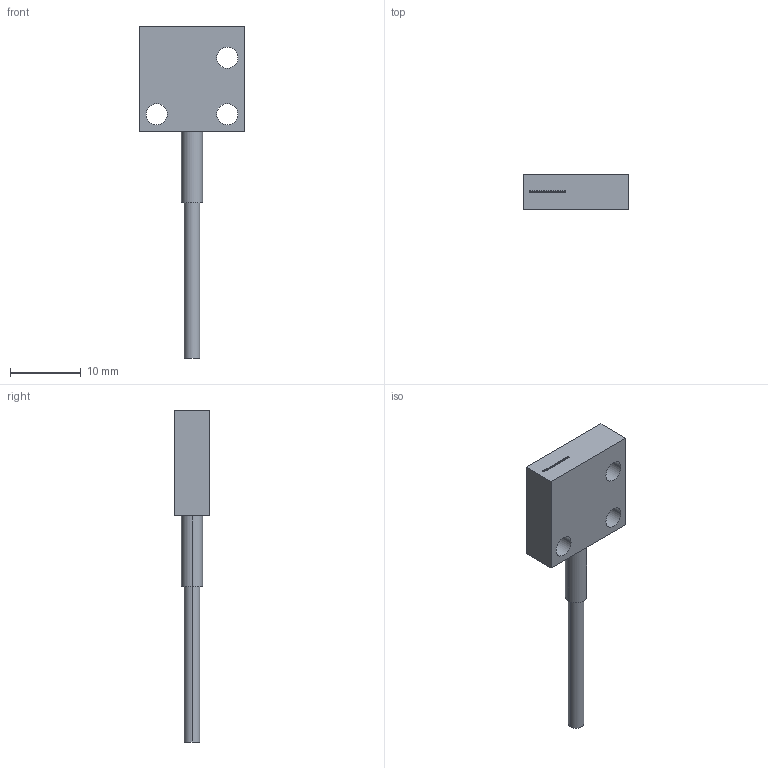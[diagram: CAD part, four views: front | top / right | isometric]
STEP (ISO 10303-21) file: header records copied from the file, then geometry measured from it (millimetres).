
FILE_DESCRIPTION (( 'STEP AP203' ), '1' );
FILE_NAME ('FT-AFM2.STEP', '2005-09-08T15:10:27', ( ' ' ), ( ' ' ), 'SwSTEP 2.0', 'SolidWorks 2004073', '' );
FILE_SCHEMA (( 'CONFIG_CONTROL_DESIGN' ));
Length unit declared in the file: millimetre
Products named in the file (1): FT-AFM2
Bounding box: 15 x 5 x 47 mm (x, y, z)
Volume: 1173.2 mm3; surface area: 1096.6 mm2
Topology: 1 solids, 1 shells, 66 faces, 138 edges, 92 vertices
Faces by surface type: cylinder 42, plane 24
Entity records: 1895 total; most frequent: DIRECTION 356, CARTESIAN_POINT 297, ORIENTED_EDGE 276, AXIS2_PLACEMENT_3D 151, EDGE_CURVE 138, VERTEX_POINT 92, EDGE_LOOP 90, CIRCLE 84
